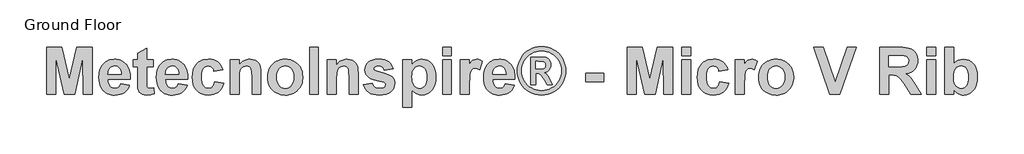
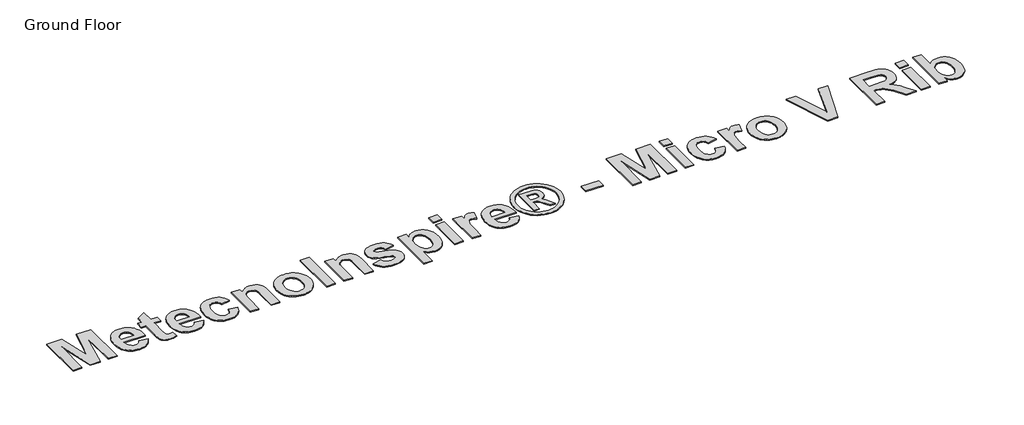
# One storey, part 7 of 14: 1 proxy.
"""IFC4 building model written with IfcOpenShell, lengths in millimetres."""

import ifcopenshell
import ifcopenshell.guid

model = None  # the IFC model being written
_history = None  # IfcOwnerHistory: only IFC2X3 demands one
_inside = {}  # id of a spatial element -> (the spatial element, [elements in it])
_under = {}  # id of a project, library or spatial element -> (it, [spatial elements below it])
_declared = {}  # id of a project -> (the project, [libraries it declares])
_typed = {}  # id of a type object -> (the type object, [elements of that type])
_made_of = {}  # id of a material, layer set ... -> (it, [elements and type objects made of it])


def new_model(schema):
    """Start an empty IFC model of exactly this schema.

    Asked for "IFC4X3", IfcOpenShell would pick the latest addendum, in which some entities
    have other attributes; the version numbers below select the first issue.
    IFC2X3 requires an IfcOwnerHistory on every rooted entity: one is made here for all.
    """
    global model, _history
    if schema == "IFC4X3":
        model = ifcopenshell.file(schema_version=(4, 3, 0, 0))
    else:
        model = ifcopenshell.file(schema=schema)
    _inside.clear()
    _under.clear()
    _declared.clear()
    _typed.clear()
    _made_of.clear()
    _history = None
    if model.schema == "IFC2X3":
        org = make("IfcOrganization", Name="unknown")
        user = make(
            "IfcPersonAndOrganization",
            ThePerson=make("IfcPerson", FamilyName="unknown"),
            TheOrganization=org,
        )
        app = make(
            "IfcApplication",
            ApplicationDeveloper=org,
            Version="unknown",
            ApplicationFullName="unknown",
            ApplicationIdentifier="unknown",
        )
        _history = make(
            "IfcOwnerHistory",
            OwningUser=user,
            OwningApplication=app,
            ChangeAction="ADDED",
            CreationDate=0,
        )
    return model


def make(cls, **values):
    """One entity of the class cls with the attributes given. An attribute that is None is left unset."""
    return model.create_entity(
        cls, **{name: value for name, value in values.items() if value is not None}
    )


def rooted(cls, **values):
    """An entity with a GlobalId (a new one), such as an element, a storey or a relation."""
    return make(cls, GlobalId=ifcopenshell.guid.new(), OwnerHistory=_history, **values)


def si_unit(unit_type, name, prefix=None):
    """IfcSIUnit, for example si_unit("LENGTHUNIT", "METRE", prefix="MILLI")."""
    return make("IfcSIUnit", UnitType=unit_type, Prefix=prefix, Name=name)


def assignment(units):
    """IfcUnitAssignment: the units of a project."""
    return None if units is None else make("IfcUnitAssignment", Units=units)


def point(xyz):
    """IfcCartesianPoint."""
    return None if xyz is None else make("IfcCartesianPoint", Coordinates=xyz)


def direction(xyz):
    """IfcDirection."""
    return None if xyz is None else make("IfcDirection", DirectionRatios=xyz)


def frame(location, z_axis=None, x_axis=None):
    """IfcAxis2Placement3D, a coordinate frame: its origin and axes. An axis left out is left unset."""
    return make(
        "IfcAxis2Placement3D",
        Location=point(location),
        Axis=direction(z_axis),
        RefDirection=direction(x_axis),
    )


def origin():
    """The frame at (0, 0, 0) with its axes left unset."""
    return frame((0.0, 0.0, 0.0))


def origin_with_axes():
    """The frame at (0, 0, 0) with the z axis (0, 0, 1) and the x axis (1, 0, 0) written out."""
    return frame((0.0, 0.0, 0.0), z_axis=(0.0, 0.0, 1.0), x_axis=(1.0, 0.0, 0.0))


def place(relative_to, where):
    """IfcLocalPlacement: puts the frame where relative to a parent placement (None: the world)."""
    return make(
        "IfcLocalPlacement", PlacementRelTo=relative_to, RelativePlacement=where
    )


def context(
    kind, dimensions, precision=None, world=None, true_north=None, identifier=None
):
    """IfcGeometricRepresentationContext, for example the 3D "Model" context."""
    return make(
        "IfcGeometricRepresentationContext",
        ContextIdentifier=identifier,
        ContextType=kind,
        CoordinateSpaceDimension=dimensions,
        Precision=precision,
        WorldCoordinateSystem=world,
        TrueNorth=true_north,
    )


def project(units=None, contexts=None):
    """IfcProject with its units and contexts."""
    return rooted(
        "IfcProject",
        Name="project",
        RepresentationContexts=contexts,
        UnitsInContext=assignment(units),
    )


def spatial(cls, under=None, at=None, **own):
    """A site, building, storey or space (cls), placed at a placement, below another one or the project."""
    s = rooted(cls, ObjectPlacement=at, **own)
    if under is not None:
        _under.setdefault(under.id(), (under, []))[1].append(s)
    return s


def polyline(points):
    """IfcPolyline through the points."""
    return make("IfcPolyline", Points=[point(p) for p in points])


def outline(outer, holes=None, kind="AREA"):
    """IfcArbitraryClosedProfileDef: a profile drawn as a closed curve; with holes, ...WithVoids."""
    if holes is None:
        return make("IfcArbitraryClosedProfileDef", ProfileType=kind, OuterCurve=outer)
    return make(
        "IfcArbitraryProfileDefWithVoids",
        ProfileType=kind,
        OuterCurve=outer,
        InnerCurves=holes,
    )


def extrude(swept, where, along, depth):
    """IfcExtrudedAreaSolid: the profile swept, set in the frame where, extruded along a direction by depth."""
    return make(
        "IfcExtrudedAreaSolid",
        SweptArea=swept,
        Position=where,
        ExtrudedDirection=direction(along),
        Depth=depth,
    )


def shape(context_of_items, identifier, shape_type, items):
    """IfcShapeRepresentation: the items that make up one representation, for example the "Body"."""
    return make(
        "IfcShapeRepresentation",
        ContextOfItems=context_of_items,
        RepresentationIdentifier=identifier,
        RepresentationType=shape_type,
        Items=items,
    )


def made_of(thing, what):
    """Note that an element or type object is made of a material, layer set ...; save() writes the relation."""
    if what is not None:
        _made_of.setdefault(what.id(), (what, []))[1].append(thing)
    return thing


def element(
    cls,
    number,
    at=None,
    inside=None,
    cuts=None,
    type_object=None,
    material=None,
    context=None,
    identifier="Body",
    shape_type=None,
    held_by="IfcProductDefinitionShape",
    body=None,
    shapes=None,
    **own,
):
    """One element of the class cls, such as IfcWall. Its Tag is "e" and its number.

    at: its placement. inside: the storey or other place that contains it. cuts: it is an
    opening in that element (IfcRelVoidsElement). A single representation is given by context,
    identifier, shape_type and body (its items); several are given by shapes. held_by: the class
    of the entity that holds the representations. save() writes the other relations.
    """
    e = rooted(cls, Tag="e%d" % number, ObjectPlacement=at, **own)
    if body is not None:
        shapes = [shape(context, identifier, shape_type, body)]
    if shapes is not None:
        e.Representation = make(held_by, Representations=shapes)
    if inside is not None:
        _inside.setdefault(inside.id(), (inside, []))[1].append(e)
    if cuts is not None:
        rooted(
            "IfcRelVoidsElement", RelatingBuildingElement=cuts, RelatedOpeningElement=e
        )
    if type_object is not None:
        _typed.setdefault(type_object.id(), (type_object, []))[1].append(e)
    return made_of(e, material)


def aggregate(whole, parts):
    """IfcRelAggregates: a whole, such as a stair, and the parts it consists of."""
    return rooted("IfcRelAggregates", RelatingObject=whole, RelatedObjects=parts)


def save(model, path):
    """Write the relations noted so far, then the file.

    IfcRelAggregates (storeys below a building ...), IfcRelContainedInSpatialStructure (elements
    in a storey), IfcRelDefinesByType, IfcRelAssociatesMaterial and IfcRelDeclares: one each for
    every whole, place, type object, material and project.
    """
    for whole, parts in _under.values():
        aggregate(whole, parts)
    for where, things in _inside.values():
        rooted(
            "IfcRelContainedInSpatialStructure",
            RelatedElements=things,
            RelatingStructure=where,
        )
    for kind, things in _typed.values():
        rooted("IfcRelDefinesByType", RelatedObjects=things, RelatingType=kind)
    for what, things in _made_of.values():
        rooted("IfcRelAssociatesMaterial", RelatedObjects=things, RelatingMaterial=what)
    for by, libraries in _declared.values():
        rooted("IfcRelDeclares", RelatingContext=by, RelatedDefinitions=libraries)
    model.write(path)


model = new_model("IFC4")

# Units and contexts
model_context = context("Model", 3, world=origin())
ifc_project = project(units=[si_unit("LENGTHUNIT", "METRE", prefix="MILLI")], contexts=[model_context])

# Site, building, storey
site = spatial("IfcSite", under=ifc_project)
building = spatial("IfcBuilding", under=site)
storey = spatial("IfcBuildingStorey", under=building, Name="Ground Floor", Elevation=0.0)

# Proxy
placement = place(None, origin())
element("IfcBuildingElementProxy", 1, Name="900mm Arial", ObjectType="900mm Arial", at=placement, inside=storey, context=model_context, shape_type="SweptSolid", body=[
    extrude(outline(polyline([(307.0358662, -78269.095371), (307.0358662, -77347.1315876), (607.954601, -77347.1315876), (753.3834121, -77975.9511323), (898.8122232, -77347.1315876), (1199.730958, -77347.1315876), (1199.730958, -78269.095371), (1024.1188088, -78269.095371), (1016.8016359, -77543.3232855), (856.2811558, -78269.095371), (650.7143301, -78269.095371), (489.9651883, -77543.3232855), (482.6480154, -78269.095371), (307.0358662, -78269.095371)])), origin_with_axes(), (0.0, 0.0, 1.0), 20.0),
    extrude(outline(polyline([(1755.8360972, -78064.2145302), (1931.4482464, -78093.4832217), (1912.4693293, -78137.2361998), (1888.6885174, -78175.4298415), (1860.1058108, -78208.0641467), (1826.7212095, -78235.1391155), (1788.6919184, -78256.3975036), (1746.1751424, -78271.5820664), (1699.1708814, -78280.6928041), (1647.6791355, -78283.7297167), (1606.5307566, -78281.9397247), (1568.1477545, -78276.5697487), (1532.5301292, -78267.6197887), (1499.6778809, -78255.0898447), (1469.5910093, -78238.9799167), (1442.2695147, -78219.2900047), (1417.7133969, -78196.0201087), (1395.922656, -78169.1702288), (1367.7115246, -78120.3080919), (1347.5607165, -78065.4150039), (1335.4702316, -78004.4909648), (1331.4400699, -77937.5359746), (1336.7850361, -77858.5905391), (1352.8199345, -77788.6772388), (1364.8461083, -77757.1076394), (1379.5447651, -77727.7960738), (1396.915905, -77700.742542), (1416.959528, -77675.947044), (1462.548945, -77634.5307022), (1487.4659195, -77618.2599965), (1513.7977379, -77604.9476009), (1541.5444003, -77594.5935154), (1570.7059067, -77587.1977401), (1633.2734514, -77581.2811199), (1669.0054075, -77582.7995761), (1702.8008852, -77587.354945), (1734.6598845, -77594.9472264), (1764.5824054, -77605.5764204), (1792.568448, -77619.242527), (1818.6180122, -77635.9455462), (1842.7310981, -77655.6854779), (1864.9077055, -77678.4623222), (1884.7333854, -77704.3761186), (1901.7936884, -77733.5269064), (1916.0886145, -77765.9146858), (1927.6181638, -77801.5394567), (1936.3823362, -77840.4012192), (1942.3811317, -77882.4999731), (1946.0825922, -77976.4084556), (1507.0522192, -77976.4084556), (1510.3249391, -78015.7096771), (1518.3138055, -78050.3805002), (1531.0188186, -78080.4209248), (1548.4399783, -78105.830951), (1569.4339763, -78126.0389245), (1592.8575043, -78140.4731914), (1618.7105624, -78149.1337514), (1646.9931506, -78152.0206048), (1683.8648421, -78146.8185522), (1714.4483381, -78131.2123944), (1727.3248474, -78119.221949), (1738.514977, -78104.0588232), (1755.8360972, -78064.2145302)]), holes=[polyline([(1770.470443, -77873.9680352), (1767.3406366, -77836.8891191), (1759.7805107, -77804.5406409), (1747.7900653, -77776.9226007), (1731.3693004, -77754.0349984), (1711.732981, -77736.077913), (1690.0958721, -77723.2514234), (1666.4579737, -77715.5555297), (1640.8192859, -77712.9902318), (1613.5799666, -77715.6912975), (1588.79876, -77723.7944949), (1566.4756661, -77737.2998237), (1546.6106851, -77756.2072841), (1530.4328731, -77779.8594738), (1518.9426251, -77807.3703289), (1512.1399409, -77838.7398494), (1510.0248206, -77873.9680352), (1770.470443, -77873.9680352)])]), origin_with_axes(), (0.0, 0.0, 1.0), 20.0),
    extrude(outline(polyline([(2399.747311, -77595.9154656), (2399.747311, -77727.6245775), (2268.0381991, -77727.6245775), (2268.0381991, -78016.4242448), (2269.0385938, -78085.7373083), (2272.039778, -78118.5216727), (2278.5852178, -78131.7840486), (2290.2183794, -78142.5311462), (2305.938868, -78149.6482402), (2324.746289, -78152.0206048), (2359.5028602, -78147.7903642), (2407.0644839, -78135.0996425), (2414.3816568, -78259.9489048), (2381.5544183, -78270.35301), (2346.6406422, -78277.7845138), (2270.5534773, -78283.7297167), (2223.7921693, -78279.613807), (2181.8327561, -78267.2660777), (2147.5620909, -78248.4014914), (2123.8670271, -78224.7350103), (2108.2322866, -78194.0371835), (2098.1425912, -78154.0785597), (2093.8551852, -78106.3454397), (2092.4260499, -78026.2566959), (2092.4260499, -77727.6245775), (2004.6199753, -77727.6245775), (2004.6199753, -77595.9154656), (2092.4260499, -77595.9154656), (2092.4260499, -77464.2063537), (2268.0381991, -77361.7659333), (2268.0381991, -77595.9154656), (2399.747311, -77595.9154656)])), origin_with_axes(), (0.0, 0.0, 1.0), 20.0),
    extrude(outline(polyline([(2882.6807214, -78064.2145302), (3058.2928706, -78093.4832217), (3039.3139534, -78137.2361998), (3015.5331415, -78175.4298415), (2986.950435, -78208.0641467), (2953.5658337, -78235.1391155), (2915.5365426, -78256.3975036), (2873.0197665, -78271.5820664), (2826.0155056, -78280.6928041), (2774.5237597, -78283.7297167), (2733.3753807, -78281.9397247), (2694.9923786, -78276.5697487), (2659.3747534, -78267.6197887), (2626.522505, -78255.0898447), (2596.4356335, -78238.9799167), (2569.1141388, -78219.2900047), (2544.5580211, -78196.0201087), (2522.7672801, -78169.1702288), (2494.5561487, -78120.3080919), (2474.4053406, -78065.4150039), (2462.3148557, -78004.4909648), (2458.2846941, -77937.5359746), (2463.6296602, -77858.5905391), (2479.6645586, -77788.6772388), (2491.6907324, -77757.1076394), (2506.3893893, -77727.7960738), (2523.7605292, -77700.742542), (2543.8041522, -77675.947044), (2589.3935692, -77634.5307022), (2614.3105436, -77618.2599965), (2640.6423621, -77604.9476009), (2668.3890245, -77594.5935154), (2697.5505309, -77587.1977401), (2760.1180756, -77581.2811199), (2795.8500316, -77582.7995761), (2829.6455093, -77587.354945), (2861.5045086, -77594.9472264), (2891.4270296, -77605.5764204), (2919.4130722, -77619.242527), (2945.4626364, -77635.9455462), (2969.5757222, -77655.6854779), (2991.7523297, -77678.4623222), (3011.5780095, -77704.3761186), (3028.6383125, -77733.5269064), (3042.9332386, -77765.9146858), (3054.4627879, -77801.5394567), (3063.2269603, -77840.4012192), (3069.2257558, -77882.4999731), (3072.9272163, -77976.4084556), (2633.8968433, -77976.4084556), (2637.1695632, -78015.7096771), (2645.1584297, -78050.3805002), (2657.8634428, -78080.4209248), (2675.2846024, -78105.830951), (2696.2786004, -78126.0389245), (2719.7021285, -78140.4731914), (2745.5551866, -78149.1337514), (2773.8377747, -78152.0206048), (2810.7094662, -78146.8185522), (2841.2929622, -78131.2123944), (2854.1694716, -78119.221949), (2865.3596012, -78104.0588232), (2882.6807214, -78064.2145302)]), holes=[polyline([(2897.3150671, -77873.9680352), (2894.1852608, -77836.8891191), (2886.6251349, -77804.5406409), (2874.6346895, -77776.9226007), (2858.2139245, -77754.0349984), (2838.5776051, -77736.077913), (2816.9404962, -77723.2514234), (2793.3025979, -77715.5555297), (2767.6639101, -77712.9902318), (2740.4245907, -77715.6912975), (2715.6433841, -77723.7944949), (2693.3202903, -77737.2998237), (2673.4553092, -77756.2072841), (2657.2774973, -77779.8594738), (2645.7872492, -77807.3703289), (2638.9845651, -77838.7398494), (2636.8694448, -77873.9680352), (2897.3150671, -77873.9680352)])]), origin_with_axes(), (0.0, 0.0, 1.0), 20.0),
    extrude(outline(polyline([(3760.7414675, -77786.1619606), (3585.1293182, -77815.4306521), (3579.7057497, -77791.5140724), (3571.6668634, -77770.7558818), (3561.0126596, -77753.1560802), (3547.743138, -77738.7146677), (3532.0726691, -77727.460227), (3514.2156232, -77719.4213407), (3494.1720002, -77714.598009), (3471.9418002, -77712.9902318), (3442.5301951, -77716.0057073), (3416.2626878, -77725.0521339), (3393.1392781, -77740.1295117), (3373.1599662, -77761.2378405), (3357.0536111, -77789.4060978), (3345.5490717, -77825.6632611), (3338.6463481, -77870.0093304), (3336.3454402, -77922.4443056), (3338.7392419, -77980.7101529), (3345.9206469, -78029.7437861), (3357.8896553, -78069.545205), (3374.646267, -78100.1144097), (3395.4330403, -78122.82337), (3419.4925336, -78139.044056), (3446.8247468, -78148.7764676), (3477.4296798, -78152.0206048), (3500.4601957, -78150.1698746), (3521.3041344, -78144.6176838), (3539.9614962, -78135.3640326), (3556.4322808, -78122.4089208), (3570.6736144, -78104.92345), (3582.6426228, -78082.0787218), (3592.339306, -78053.8747361), (3599.763664, -78020.3114929), (3775.3758132, -78049.5801844), (3759.1908556, -78103.9945121), (3736.9320729, -78151.3060371), (3708.599465, -78191.5147596), (3674.1930319, -78224.6206795), (3633.5698602, -78250.4808833), (3586.5870363, -78268.9524574), (3533.2445601, -78280.0354019), (3473.5424318, -78283.7297167), (3405.7085234, -78277.9131359), (3374.5087127, -78270.6424099), (3345.1203311, -78260.4633936), (3317.5433785, -78247.3760868), (3291.7778549, -78231.3804896), (3267.8237604, -78212.4766021), (3245.6810949, -78190.6644241), (3225.7714534, -78166.2833754), (3208.5164307, -78139.6728756), (3193.9160269, -78110.8329246), (3181.9702419, -78079.7635226), (3166.0425287, -78010.9363651), (3160.733291, -77933.1914032), (3166.0068003, -77854.5675231), (3181.8273284, -77785.1615659), (3193.6927245, -77753.9153083), (3208.1948752, -77724.9735315), (3225.3337807, -77698.3362354), (3245.1094408, -77674.00342), (3267.135989, -77652.2716309), (3291.0275589, -77633.4374137), (3316.7841504, -77617.5007683), (3344.4057634, -77604.4616949), (3373.8923981, -77594.3201933), (3405.2440544, -77587.0762636), (3473.5424318, -77581.2811199), (3529.4073318, -77584.4466546), (3579.2412807, -77593.9432589), (3623.0442785, -77609.7709326), (3660.8163253, -77631.9296759), (3693.129075, -77660.5624022), (3720.554182, -77695.8120251), (3743.0916461, -77737.6785446), (3760.7414675, -77786.1619606)])), origin_with_axes(), (0.0, 0.0, 1.0), 20.0),
    extrude(outline(polyline([(4507.0931016, -78269.095371), (4331.4809524, -78269.095371), (4331.4809524, -77923.1302905), (4328.7370126, -77832.5802761), (4320.5051931, -77780.9027426), (4306.0423436, -77752.2628706), (4284.6053136, -77730.8258407), (4257.2230807, -77717.449134), (4224.9246223, -77712.9902318), (4203.0945801, -77714.5837177), (4182.4221376, -77719.3641753), (4162.9072947, -77727.3316048), (4144.5500514, -77738.486006), (4128.1721605, -77752.277162), (4114.5953749, -77768.1548555), (4103.8196945, -77786.1190865), (4095.8451194, -77806.1698552), (4085.9840856, -77866.2221217), (4082.6970743, -77962.0027715), (4082.6970743, -78269.095371), (3907.0849251, -78269.095371), (3907.0849251, -77595.9154656), (4082.6970743, -77595.9154656), (4082.6970743, -77692.8680063), (4104.2377166, -77666.7148298), (4127.1288917, -77644.0487435), (4151.3705997, -77624.8697474), (4176.9628406, -77609.1778415), (4203.9056144, -77596.9730258), (4232.1989211, -77588.2553003), (4261.8427607, -77583.024665), (4292.8371331, -77581.2811199), (4346.229629, -77586.5975033), (4394.8202302, -77602.5466535), (4435.4076735, -77626.7276233), (4464.7906959, -77656.7394652), (4484.941504, -77691.8676116), (4497.8323047, -77731.3974948), (4504.7779024, -77782.1889644), (4507.0931016, -77851.10187), (4507.0931016, -78269.095371)])), origin_with_axes(), (0.0, 0.0, 1.0), 20.0),
    extrude(outline(polyline([(4638.8022135, -77922.9016289), (4641.510425, -77879.0057372), (4649.6350593, -77835.8101219), (4663.1761166, -77793.3147829), (4682.1335967, -77751.5197202), (4706.0501764, -77712.5257628), (4734.4685325, -77678.4337395), (4767.3886648, -77649.2436504), (4804.8105733, -77624.9554955), (4845.6409697, -77605.8479562), (4888.7865653, -77592.1997138), (4934.2473601, -77584.0107683), (4982.0233541, -77581.2811199), (5019.0111629, -77582.8281588), (5054.287582, -77587.4692758), (5087.8526117, -77595.2044708), (5119.7062517, -77606.0337437), (5149.8485022, -77619.9570947), (5178.2793632, -77636.9745236), (5204.9988346, -77657.0860305), (5230.0069164, -77680.2916154), (5252.6497793, -77705.8624193), (5272.2735938, -77733.0695831), (5288.8783599, -77761.9131069), (5302.4640776, -77792.3929906), (5313.0307469, -77824.5092343), (5320.5783679, -77858.2618379), (5326.6164646, -77930.6761251), (5325.0908627, -77967.9890621), (5320.5140568, -78003.669212), (5312.886047, -78037.7165748), (5302.2068332, -78070.1311505), (5288.4764155, -78100.912939), (5271.6947939, -78130.0619405), (5251.8619684, -78157.5781548), (5228.977939, -78183.461582), (5203.7822831, -78206.9619261), (5177.0145784, -78227.328891), (5148.6748248, -78244.5624766), (5118.7630224, -78258.6626831), (5087.2791711, -78269.6295103), (5054.2232709, -78277.4629583), (5019.5953219, -78282.1630271), (4983.395324, -78283.7297167), (4938.0845884, -78281.1215447), (4893.8457043, -78273.2970288), (4850.6786717, -78260.2561689), (4808.5834906, -78241.9989651), (4769.5109307, -78218.6969136), (4735.4117618, -78190.5215106), (4706.2859838, -78157.4727561), (4682.1335967, -78119.5506501), (4663.1761166, -78076.991), (4649.6350593, -78030.0296131), (4641.510425, -77978.6664894), (4638.8022135, -77922.9016289)]), holes=[polyline([(4814.4143628, -77932.5054183), (4817.4512753, -77982.5608832), (4826.5620131, -78026.3996094), (4841.7465759, -78064.0215969), (4863.0049639, -78095.4268458), (4888.7222542, -78120.1866154), (4917.2835237, -78137.8721651), (4948.6887726, -78148.4834949), (4982.9380007, -78152.0206048), (5017.1729375, -78148.4834949), (5048.5353123, -78137.8721651), (5077.0251251, -78120.1866154), (5102.6423759, -78095.4268458), (5123.8007244, -78063.9358488), (5138.9138305, -78026.0566169), (5147.9816942, -77981.7891501), (5151.0043154, -77931.1334484), (5147.9816942, -77881.6782203), (5138.9138305, -77838.2682347), (5123.8007244, -77800.9034915), (5102.6423759, -77769.5839908), (5077.0251251, -77744.8242212), (5048.5353123, -77727.1386715), (5017.1729375, -77716.5273417), (4982.9380007, -77712.9902318), (4948.6887726, -77716.5273417), (4917.2835237, -77727.1386715), (4888.7222542, -77744.8242212), (4863.0049639, -77769.5839908), (4841.7465759, -77800.9892396), (4826.5620131, -77838.6112272), (4817.4512753, -77882.4499534), (4814.4143628, -77932.5054183)])]), origin_with_axes(), (0.0, 0.0, 1.0), 20.0),
    extrude(outline(polyline([(5458.3255766, -78269.095371), (5458.3255766, -77347.1315876), (5633.9377258, -77347.1315876), (5633.9377258, -78269.095371), (5458.3255766, -78269.095371)])), origin_with_axes(), (0.0, 0.0, 1.0), 20.0),
    extrude(outline(polyline([(6409.5580515, -78269.095371), (6233.9459023, -78269.095371), (6233.9459023, -77923.1302905), (6231.2019624, -77832.5802761), (6222.9701429, -77780.9027426), (6208.5072934, -77752.2628706), (6187.0702635, -77730.8258407), (6159.6880306, -77717.449134), (6127.3895721, -77712.9902318), (6105.55953, -77714.5837177), (6084.8870875, -77719.3641753), (6065.3722445, -77727.3316048), (6047.0150012, -77738.486006), (6030.6371104, -77752.277162), (6017.0603247, -77768.1548555), (6006.2846444, -77786.1190865), (5998.3100692, -77806.1698552), (5988.4490355, -77866.2221217), (5985.1620242, -77962.0027715), (5985.1620242, -78269.095371), (5809.549875, -78269.095371), (5809.549875, -77595.9154656), (5985.1620242, -77595.9154656), (5985.1620242, -77692.8680063), (6006.7026665, -77666.7148298), (6029.5938416, -77644.0487435), (6053.8355496, -77624.8697474), (6079.4277905, -77609.1778415), (6106.3705643, -77596.9730258), (6134.663871, -77588.2553003), (6164.3077105, -77583.024665), (6195.302083, -77581.2811199), (6248.6945789, -77586.5975033), (6297.28518, -77602.5466535), (6337.8726234, -77626.7276233), (6367.2556457, -77656.7394652), (6387.4064539, -77691.8676116), (6400.2972546, -77731.3974948), (6407.2428522, -77782.1889644), (6409.5580515, -77851.10187), (6409.5580515, -78269.095371)])), origin_with_axes(), (0.0, 0.0, 1.0), 20.0),
    extrude(outline(polyline([(6511.9984719, -78078.848876), (6687.6106211, -78049.5801844), (6694.5347817, -78073.2180828), (6704.3315044, -78093.8262142), (6717.0007891, -78111.4045788), (6732.5426358, -78125.9531764), (6751.1999975, -78137.3576763), (6773.2158273, -78145.5037477), (6798.590125, -78150.3913905), (6827.3228908, -78152.0206048), (6858.7495767, -78150.4628473), (6886.0317701, -78145.7895748), (6909.1694711, -78138.0007872), (6928.1626796, -78127.0964847), (6945.3123036, -78106.7455976), (6951.0288449, -78080.4495075), (6947.999078, -78062.2709062), (6938.9097773, -78047.5222296), (6918.1587323, -78035.4603274), (6881.5157025, -78024.4274026), (6787.2070621, -78001.4754893), (6711.9059217, -77979.4953879), (6655.6122811, -77958.4870986), (6618.3261403, -77938.4506213), (6584.6128379, -77908.5959842), (6560.5319076, -77873.4535465), (6546.0833495, -77833.023308), (6541.2671634, -77787.3052689), (6545.3973645, -77745.4744778), (6557.7879678, -77707.1021942), (6578.4389733, -77672.1884181), (6607.350381, -77640.7331495), (6644.9509315, -77614.7228865), (6691.6693654, -77596.1441273), (6747.5056827, -77584.9968717), (6812.4598834, -77581.2811199), (6874.2985691, -77584.282304), (6927.6481909, -77593.2858566), (6972.5087489, -77608.2917776), (7008.880243, -77629.3000669), (7038.5062184, -77656.1963938), (7063.1302201, -77688.8664274), (7082.7522482, -77727.3101678), (7097.3723026, -77771.5276148), (6921.7601534, -77800.7963064), (6908.84077, -77763.2386299), (6887.9182288, -77735.6277354), (6874.1413642, -77725.7238275), (6857.7348906, -77718.6496077), (6817.0331165, -77712.9902318), (6767.01338, -77717.7921265), (6748.2202504, -77723.7944949), (6733.5716133, -77732.1978106), (6721.0523878, -77747.9754646), (6716.8793126, -77767.8690284), (6721.0523878, -77785.0758178), (6733.5716133, -77799.6529981), (6751.6859035, -77809.2424962), (6783.6199325, -77820.6327047), (6888.9472062, -77848.8152534), (6950.407171, -77865.6361762), (7001.8203145, -77884.314975), (7043.1866366, -77904.8516497), (7074.5061373, -77927.2462003), (7097.3151372, -77953.2421719), (7113.6072799, -77983.8971247), (7123.3825656, -78019.2110587), (7126.6409941, -78059.1839738), (7121.9177019, -78103.6372282), (7107.7478251, -78144.8463455), (7084.1313638, -78182.8113255), (7051.0683179, -78217.5321683), (7008.7444752, -78246.4935957), (6957.3456231, -78267.1803296), (6896.8717616, -78279.5923699), (6827.3228908, -78283.7297167), (6763.6048922, -78280.2855006), (6706.903948, -78269.9528522), (6657.2200583, -78252.7317714), (6614.5532231, -78228.6222584), (6578.7748201, -78198.5961252), (6549.7562272, -78163.6251837), (6527.4974445, -78123.7094339), (6511.9984719, -78078.848876)])), origin_with_axes(), (0.0, 0.0, 1.0), 20.0),
    extrude(outline(polyline([(7287.6187976, -77595.9154656), (7463.2309468, -77595.9154656), (7463.2309468, -77692.8680063), (7480.0232869, -77669.1300685), (7499.5309841, -77647.7644954), (7521.7540385, -77628.7712868), (7546.69245, -77612.150443), (7573.7173991, -77598.6451141), (7602.2000662, -77588.9984506), (7632.1404513, -77583.2104525), (7663.5385545, -77581.2811199), (7717.3383539, -77587.0190982), (7766.9222042, -77604.2330332), (7812.2901052, -77632.922925), (7853.442057, -77673.0887734), (7871.7439213, -77697.1643444), (7887.605537, -77723.4872308), (7912.0080228, -77782.8749493), (7926.6495142, -77851.2519292), (7931.5300114, -77928.6181702), (7926.4923093, -78008.178134), (7911.3792032, -78078.3343872), (7900.0443737, -78109.8861225), (7886.1906931, -78139.0869301), (7869.8181614, -78165.9368101), (7850.9267788, -78190.4357625), (7808.4886052, -78231.2518674), (7761.777317, -78260.4062282), (7710.7929141, -78277.8988446), (7655.5353966, -78283.7297167), (7603.4577053, -78278.2990025), (7556.5249011, -78262.0068597), (7511.0212322, -78232.5095065), (7463.2309468, -78187.463161), (7463.2309468, -78517.879249), (7287.6187976, -78517.879249), (7287.6187976, -77595.9154656)]), holes=[polyline([(7463.2309468, -77920.843674), (7465.9820323, -77976.0940458), (7474.2352888, -78023.6270869), (7487.9907164, -78063.4427971), (7507.2483149, -78095.5411766), (7530.4646183, -78120.2509264), (7556.0961605, -78137.9007478), (7584.1429413, -78148.4906405), (7614.6049608, -78152.0206048), (7643.637845, -78148.7836133), (7670.1411597, -78139.0726387), (7694.1149049, -78122.8876811), (7715.5590805, -78100.2287405), (7733.2160475, -78070.1811702), (7745.8281667, -78031.8303236), (7753.3954383, -77985.1762008), (7755.9178622, -77930.2188018), (7753.3239815, -77878.6555991), (7745.5423397, -77834.1809077), (7732.5729366, -77796.7947275), (7714.4157722, -77766.4970585), (7692.4142338, -77743.0878218), (7667.9117086, -77726.3669384), (7640.9081966, -77716.3344084), (7611.4036977, -77712.9902318), (7580.85593, -77716.2700973), (7553.0092282, -77726.1096941), (7527.863592, -77742.509022), (7505.4190217, -77765.468081), (7486.9617389, -77794.8582491), (7473.7779655, -77830.5509039), (7465.8677015, -77872.5460456), (7463.2309468, -77920.843674)])]), origin_with_axes(), (0.0, 0.0, 1.0), 20.0),
    extrude(outline(polyline([(8063.2391233, -77508.109391), (8063.2391233, -77347.1315876), (8238.8512725, -77347.1315876), (8238.8512725, -77508.109391), (8063.2391233, -77508.109391)])), origin_with_axes(), (0.0, 0.0, 1.0), 20.0),
    extrude(outline(polyline([(8063.2391233, -78269.095371), (8063.2391233, -77595.9154656), (8238.8512725, -77595.9154656), (8238.8512725, -78269.095371), (8063.2391233, -78269.095371)])), origin_with_axes(), (0.0, 0.0, 1.0), 20.0),
    extrude(outline(polyline([(8590.0755709, -78269.095371), (8414.4634217, -78269.095371), (8414.4634217, -77595.9154656), (8590.0755709, -77595.9154656), (8590.0755709, -77689.6667432), (8627.1759241, -77634.5307022), (8644.2255085, -77615.5160567), (8660.2746983, -77602.2036611), (8693.5449687, -77586.5117552), (8731.1598106, -77581.2811199), (8758.8135792, -77583.5963191), (8785.9814418, -77590.5419168), (8812.6633984, -77602.1179129), (8838.859449, -77618.3243076), (8787.6392388, -77785.4759756), (8745.3368331, -77764.0389457), (8725.3861039, -77758.6796882), (8706.2356905, -77756.8932691), (8672.479514, -77761.8952427), (8644.3827134, -77776.9011637), (8632.4208507, -77788.9130461), (8621.8023752, -77804.9407988), (8604.5955859, -77849.0439151), (8598.2430793, -77882.2570201), (8593.7055747, -77929.7614785), (8590.0755709, -78067.644455), (8590.0755709, -78269.095371)])), origin_with_axes(), (0.0, 0.0, 1.0), 20.0),
    extrude(outline(polyline([(9292.5241678, -78064.2145302), (9468.136317, -78093.4832217), (9449.1573999, -78137.2361998), (9425.376588, -78175.4298415), (9396.7938814, -78208.0641467), (9363.4092801, -78235.1391155), (9325.379989, -78256.3975036), (9282.863213, -78271.5820664), (9235.858952, -78280.6928041), (9184.3672061, -78283.7297167), (9143.2188272, -78281.9397247), (9104.8358251, -78276.5697487), (9069.2181998, -78267.6197887), (9036.3659514, -78255.0898447), (9006.2790799, -78238.9799167), (8978.9575853, -78219.2900047), (8954.4014675, -78196.0201087), (8932.6107266, -78169.1702288), (8904.3995952, -78120.3080919), (8884.248787, -78065.4150039), (8872.1583022, -78004.4909648), (8868.1281405, -77937.5359746), (8873.4731067, -77858.5905391), (8889.508005, -77788.6772388), (8901.5341788, -77757.1076394), (8916.2328357, -77727.7960738), (8933.6039756, -77700.742542), (8953.6475986, -77675.947044), (8999.2370156, -77634.5307022), (9024.1539901, -77618.2599965), (9050.4858085, -77604.9476009), (9078.2324709, -77594.5935154), (9107.3939773, -77587.1977401), (9169.961522, -77581.2811199), (9205.6934781, -77582.7995761), (9239.4889557, -77587.354945), (9271.3479551, -77594.9472264), (9301.270476, -77605.5764204), (9329.2565186, -77619.242527), (9355.3060828, -77635.9455462), (9379.4191686, -77655.6854779), (9401.5957761, -77678.4623222), (9421.421456, -77704.3761186), (9438.4817589, -77733.5269064), (9452.7766851, -77765.9146858), (9464.3062343, -77801.5394567), (9473.0704067, -77840.4012192), (9479.0692023, -77882.4999731), (9482.7706628, -77976.4084556), (9043.7402897, -77976.4084556), (9047.0130096, -78015.7096771), (9055.0018761, -78050.3805002), (9067.7068892, -78080.4209248), (9085.1280489, -78105.830951), (9106.1220469, -78126.0389245), (9129.5455749, -78140.4731914), (9155.398633, -78149.1337514), (9183.6812212, -78152.0206048), (9220.5529126, -78146.8185522), (9251.1364087, -78131.2123944), (9264.012918, -78119.221949), (9275.2030476, -78104.0588232), (9292.5241678, -78064.2145302)]), holes=[polyline([(9307.1585136, -77873.9680352), (9304.0287072, -77836.8891191), (9296.4685813, -77804.5406409), (9284.4781359, -77776.9226007), (9268.057371, -77754.0349984), (9248.4210516, -77736.077913), (9226.7839427, -77723.2514234), (9203.1460443, -77715.5555297), (9177.5073565, -77712.9902318), (9150.2680372, -77715.6912975), (9125.4868306, -77723.7944949), (9103.1637367, -77737.2998237), (9083.2987557, -77756.2072841), (9067.1209437, -77779.8594738), (9055.6306957, -77807.3703289), (9048.8280115, -77838.7398494), (9046.7128912, -77873.9680352), (9307.1585136, -77873.9680352)])]), origin_with_axes(), (0.0, 0.0, 1.0), 20.0),
    extrude(outline(polyline([(10002.2899376, -77332.4972418), (10062.8352558, -77336.3201788), (10122.1372262, -77347.7889898), (10180.195849, -77366.9036748), (10237.011124, -77393.6642339), (10290.1963952, -77427.5633239), (10337.3650068, -77468.0936018), (10378.5169586, -77515.2550677), (10413.6522506, -77569.0477214), (10441.7633426, -77626.8205171), (10461.8426939, -77685.9224086), (10473.8903047, -77746.353396), (10477.906175, -77808.1134793), (10473.9689072, -77869.4805503), (10462.1571037, -77929.418486), (10442.4707645, -77987.9272863), (10414.9098897, -78045.0069514), (10380.3033777, -78098.2636794), (10339.4801271, -78145.3036688), (10292.4401377, -78186.1269194), (10239.1834097, -78220.7334314), (10182.1037446, -78248.2943062), (10123.5949443, -78267.9806454), (10063.6570086, -78279.7924489), (10002.2899376, -78283.7297167), (9940.9228665, -78279.7924489), (9880.9849308, -78267.9806454), (9822.4761305, -78248.2943062), (9765.3964654, -78220.7334314), (9712.1397374, -78186.1269194), (9665.0997481, -78145.3036688), (9624.2764974, -78098.2636794), (9589.6699854, -78045.0069514), (9562.1091106, -77987.9272863), (9542.4227714, -77929.418486), (9530.6109679, -77869.4805503), (9526.6737001, -77808.1134793), (9530.6895704, -77746.353396), (9542.7371812, -77685.9224086), (9562.8165326, -77626.8205171), (9590.9276245, -77569.0477214), (9626.0629165, -77515.2550677), (9667.2148683, -77468.0936018), (9714.3834799, -77427.5633239), (9767.5687511, -77393.6642339), (9824.3840261, -77366.9036748), (9882.4426489, -77347.7889898), (9941.7446193, -77336.3201788), (10002.2899376, -77332.4972418)]), holes=[polyline([(10002.0612759, -77420.3033164), (9952.73467, -77423.4116857), (9904.4513329, -77432.7367938), (9857.2112646, -77448.2786405), (9811.0144651, -77470.0372258), (9767.7616844, -77497.612392), (9729.3536724, -77530.6039811), (9695.7904292, -77569.0119931), (9667.0719548, -77612.8364279), (9644.062876, -77659.926437), (9627.6278197, -77708.1311716), (9617.766786, -77757.4506318), (9614.4797747, -77807.8848176), (9617.6881835, -77857.9402825), (9627.31341, -77906.8095651), (9643.355454, -77954.4926653), (9665.8143157, -78000.9895832), (9694.0254471, -78044.3781318), (9727.3243003, -78082.7361241), (9765.7108752, -78116.0635599), (9809.1851719, -78144.3604394), (9855.7535466, -78166.9193406), (9903.4223555, -78183.0328414), (9952.1915986, -78192.7009419), (10002.0612759, -78195.9236421), (10052.1095951, -78192.7009419), (10100.9574407, -78183.0328414), (10148.6048125, -78166.9193406), (10195.0517107, -78144.3604394), (10238.3973852, -78116.0635599), (10276.7410861, -78082.7361241), (10310.0828133, -78044.3781318), (10338.4225669, -78000.9895832), (10361.0314878, -77954.4926653), (10377.180717, -77906.8095651), (10386.8702546, -77857.9402825), (10390.1001004, -77807.8848176), (10386.8130892, -77757.4506318), (10376.9520554, -77708.1311716), (10360.5169991, -77659.926437), (10337.5079203, -77612.8364279), (10308.7680088, -77569.0119931), (10275.1404546, -77530.6039811), (10236.6252574, -77497.612392), (10193.2224175, -77470.0372258), (10146.8898501, -77448.2786405), (10099.5854708, -77432.7367938), (10051.3092793, -77423.4116857), (10002.0612759, -77420.3033164)])]), origin_with_axes(), (0.0, 0.0, 1.0), 20.0),
    extrude(outline(polyline([(9790.0919239, -78078.848876), (9790.0919239, -77537.3780825), (9889.1024195, -77537.3780825), (10044.8210049, -77538.7500525), (10088.5239633, -77546.4388005), (10121.3083278, -77560.3585786), (10146.3753614, -77581.8813567), (10166.9263275, -77612.3791046), (10180.6460266, -77649.2507961), (10185.2192597, -77689.8954048), (10183.0969937, -77718.1065362), (10176.7301958, -77744.2025473), (10166.118866, -77768.1834382), (10151.2630042, -77790.0492087), (10132.5627685, -77808.8852123), (10110.4183165, -77823.7768025), (10084.8296485, -77834.7239791), (10055.7967643, -77841.7267422), (10076.0619032, -77851.5020278), (10091.1249896, -77862.0776293), (10125.3099067, -77903.6940501), (10162.5817561, -77969.548606), (10214.4879512, -78078.848876), (10112.0475308, -78078.848876), (10061.5133056, -77992.1861096), (10016.5527081, -77920.843674), (9984.1113362, -77881.9711931), (9970.1415383, -77872.0672852), (9954.413904, -77864.9930653), (9917.6851261, -77859.3336894), (9892.5323443, -77859.3336894), (9892.5323443, -78078.848876), (9790.0919239, -78078.848876)]), holes=[polyline([(9892.5323443, -77771.5276148), (9932.5481335, -77771.5276148), (10001.661118, -77769.7269043), (10038.4184787, -77764.3247728), (10056.8257417, -77754.3779909), (10070.8884333, -77738.9433293), (10079.8062378, -77719.5356716), (10082.7788393, -77697.669901), (10079.8634032, -77676.4901155), (10071.117095, -77657.7684427), (10056.9972379, -77642.7625217), (10037.9611554, -77632.7299917), (10000.8608022, -77627.0706158), (9932.5481335, -77625.1841572), (9892.5323443, -77625.1841572), (9892.5323443, -77771.5276148)])]), origin_with_axes(), (0.0, 0.0, 1.0), 20.0),
    extrude(outline(polyline([(10873.0335108, -78020.3114929), (10873.0335108, -77859.3336894), (11224.2578092, -77859.3336894), (11224.2578092, -78020.3114929), (10873.0335108, -78020.3114929)])), origin_with_axes(), (0.0, 0.0, 1.0), 20.0),
    extrude(outline(polyline([(11677.922528, -78269.095371), (11677.922528, -77347.1315876), (11978.8412629, -77347.1315876), (12124.2700739, -77975.9511323), (12269.698885, -77347.1315876), (12570.6176199, -77347.1315876), (12570.6176199, -78269.095371), (12395.0054706, -78269.095371), (12387.6882978, -77543.3232855), (12227.1678176, -78269.095371), (12021.6009919, -78269.095371), (11860.8518501, -77543.3232855), (11853.5346772, -78269.095371), (11677.922528, -78269.095371)])), origin_with_axes(), (0.0, 0.0, 1.0), 20.0),
    extrude(outline(polyline([(12746.2297691, -78269.095371), (12746.2297691, -77595.9154656), (12921.8419183, -77595.9154656), (12921.8419183, -78269.095371), (12746.2297691, -78269.095371)])), origin_with_axes(), (0.0, 0.0, 1.0), 20.0),
    extrude(outline(polyline([(12746.2297691, -77508.109391), (12746.2297691, -77347.1315876), (12921.8419183, -77347.1315876), (12921.8419183, -77508.109391), (12746.2297691, -77508.109391)])), origin_with_axes(), (0.0, 0.0, 1.0), 20.0),
    extrude(outline(polyline([(13653.5592067, -77786.1619606), (13477.9470575, -77815.4306521), (13472.5234889, -77791.5140724), (13464.4846027, -77770.7558818), (13453.8303988, -77753.1560802), (13440.5608773, -77738.7146677), (13424.8904084, -77727.460227), (13407.0333625, -77719.4213407), (13386.9897395, -77714.598009), (13364.7595394, -77712.9902318), (13335.3479344, -77716.0057073), (13309.080427, -77725.0521339), (13285.9570174, -77740.1295117), (13265.9777055, -77761.2378405), (13249.8713503, -77789.4060978), (13238.366811, -77825.6632611), (13231.4640873, -77870.0093304), (13229.1631794, -77922.4443056), (13231.5569811, -77980.7101529), (13238.7383861, -78029.7437861), (13250.7073945, -78069.545205), (13267.4640062, -78100.1144097), (13288.2507796, -78122.82337), (13312.3102729, -78139.044056), (13339.642486, -78148.7764676), (13370.2474191, -78152.0206048), (13393.2779349, -78150.1698746), (13414.1218737, -78144.6176838), (13432.7792354, -78135.3640326), (13449.2500201, -78122.4089208), (13463.4913536, -78104.92345), (13475.460362, -78082.0787218), (13485.1570452, -78053.8747361), (13492.5814033, -78020.3114929), (13668.1935525, -78049.5801844), (13652.0085949, -78103.9945121), (13629.7498121, -78151.3060371), (13601.4172042, -78191.5147596), (13567.0107712, -78224.6206795), (13526.3875995, -78250.4808833), (13479.4047755, -78268.9524574), (13426.0622994, -78280.0354019), (13366.360171, -78283.7297167), (13298.5262626, -78277.9131359), (13267.326452, -78270.6424099), (13237.9380704, -78260.4633936), (13210.3611178, -78247.3760868), (13184.5955942, -78231.3804896), (13160.6414997, -78212.4766021), (13138.4988342, -78190.6644241), (13118.5891926, -78166.2833754), (13101.3341699, -78139.6728756), (13086.7337661, -78110.8329246), (13074.7879812, -78079.7635226), (13058.860268, -78010.9363651), (13053.5510302, -77933.1914032), (13058.8245396, -77854.5675231), (13074.6450677, -77785.1615659), (13086.5104637, -77753.9153083), (13101.0126145, -77724.9735315), (13118.1515199, -77698.3362354), (13137.92718, -77674.00342), (13159.9537283, -77652.2716309), (13183.8452982, -77633.4374137), (13209.6018896, -77617.5007683), (13237.2235027, -77604.4616949), (13266.7101374, -77594.3201933), (13298.0617936, -77587.0762636), (13366.360171, -77581.2811199), (13422.225071, -77584.4466546), (13472.0590199, -77593.9432589), (13515.8620178, -77609.7709326), (13553.6340645, -77631.9296759), (13585.9468143, -77660.5624022), (13613.3719213, -77695.8120251), (13635.9093854, -77737.6785446), (13653.5592067, -77786.1619606)])), origin_with_axes(), (0.0, 0.0, 1.0), 20.0),
    extrude(outline(polyline([(13975.5148136, -78269.095371), (13799.9026644, -78269.095371), (13799.9026644, -77595.9154656), (13975.5148136, -77595.9154656), (13975.5148136, -77689.6667432), (14012.6151667, -77634.5307022), (14029.6647512, -77615.5160567), (14045.713941, -77602.2036611), (14078.9842114, -77586.5117552), (14116.5990533, -77581.2811199), (14144.2528219, -77583.5963191), (14171.4206845, -77590.5419168), (14198.1026411, -77602.1179129), (14224.2986917, -77618.3243076), (14173.0784815, -77785.4759756), (14130.7760757, -77764.0389457), (14110.8253465, -77758.6796882), (14091.6749331, -77756.8932691), (14057.9187567, -77761.8952427), (14029.8219561, -77776.9011637), (14017.8600934, -77788.9130461), (14007.2416179, -77804.9407988), (13990.0348285, -77849.0439151), (13983.682322, -77882.2570201), (13979.1448173, -77929.7614785), (13975.5148136, -78067.644455), (13975.5148136, -78269.095371)])), origin_with_axes(), (0.0, 0.0, 1.0), 20.0),
    extrude(outline(polyline([(14253.5673832, -77922.9016289), (14256.2755946, -77879.0057372), (14264.400229, -77835.8101219), (14277.9412862, -77793.3147829), (14296.8987664, -77751.5197202), (14320.8153461, -77712.5257628), (14349.2337021, -77678.4337395), (14382.1538344, -77649.2436504), (14419.575743, -77624.9554955), (14460.4061394, -77605.8479562), (14503.5517349, -77592.1997138), (14549.0125297, -77584.0107683), (14596.7885238, -77581.2811199), (14633.7763325, -77582.8281588), (14669.0527517, -77587.4692758), (14702.6177813, -77595.2044708), (14734.4714214, -77606.0337437), (14764.6136719, -77619.9570947), (14793.0445328, -77636.9745236), (14819.7640042, -77657.0860305), (14844.7720861, -77680.2916154), (14867.4149489, -77705.8624193), (14887.0387634, -77733.0695831), (14903.6435295, -77761.9131069), (14917.2292472, -77792.3929906), (14927.7959166, -77824.5092343), (14935.3435375, -77858.2618379), (14941.3816343, -77930.6761251), (14939.8560323, -77967.9890621), (14935.2792264, -78003.669212), (14927.6512166, -78037.7165748), (14916.9720029, -78070.1311505), (14903.2415852, -78100.912939), (14886.4599636, -78130.0619405), (14866.6271381, -78157.5781548), (14843.7431086, -78183.461582), (14818.5474528, -78206.9619261), (14791.7797481, -78227.328891), (14763.4399945, -78244.5624766), (14733.5281921, -78258.6626831), (14702.0443408, -78269.6295103), (14668.9884406, -78277.4629583), (14634.3604916, -78282.1630271), (14598.1604937, -78283.7297167), (14552.8497581, -78281.1215447), (14508.610874, -78273.2970288), (14465.4438414, -78260.2561689), (14423.3486603, -78241.9989651), (14384.2761004, -78218.6969136), (14350.1769314, -78190.5215106), (14321.0511534, -78157.4727561), (14296.8987664, -78119.5506501), (14277.9412862, -78076.991), (14264.400229, -78030.0296131), (14256.2755946, -77978.6664894), (14253.5673832, -77922.9016289)]), holes=[polyline([(14429.1795324, -77932.5054183), (14432.216445, -77982.5608832), (14441.3271827, -78026.3996094), (14456.5117456, -78064.0215969), (14477.7701336, -78095.4268458), (14503.4874238, -78120.1866154), (14532.0486934, -78137.8721651), (14563.4539422, -78148.4834949), (14597.7031704, -78152.0206048), (14631.9381072, -78148.4834949), (14663.300482, -78137.8721651), (14691.7902948, -78120.1866154), (14717.4075456, -78095.4268458), (14738.5658941, -78063.9358488), (14753.6790002, -78026.0566169), (14762.7468639, -77981.7891501), (14765.7694851, -77931.1334484), (14762.7468639, -77881.6782203), (14753.6790002, -77838.2682347), (14738.5658941, -77800.9034915), (14717.4075456, -77769.5839908), (14691.7902948, -77744.8242212), (14663.300482, -77727.1386715), (14631.9381072, -77716.5273417), (14597.7031704, -77712.9902318), (14563.4539422, -77716.5273417), (14532.0486934, -77727.1386715), (14503.4874238, -77744.8242212), (14477.7701336, -77769.5839908), (14456.5117456, -77800.9892396), (14441.3271827, -77838.6112272), (14432.216445, -77882.4499534), (14429.1795324, -77932.5054183)])]), origin_with_axes(), (0.0, 0.0, 1.0), 20.0),
    extrude(outline(polyline([(15647.260156, -78269.095371), (15336.50897, -77347.1315876), (15521.7249087, -77347.1315876), (15753.5878244, -78034.9458387), (15986.1367252, -77347.1315876), (16170.6666788, -77347.1315876), (15843.4518539, -78269.095371), (15647.260156, -78269.095371)])), origin_with_axes(), (0.0, 0.0, 1.0), 20.0),
    extrude(outline(polyline([(16624.3313976, -78269.095371), (16624.3313976, -77347.1315876), (17012.1415605, -77347.1315876), (17080.3113157, -77348.6893451), (17138.4771236, -77353.3626176), (17186.6389842, -77361.1514051), (17224.7968974, -77372.0557077), (17256.2950401, -77386.9472978), (17284.4775888, -77406.6979481), (17309.3445435, -77431.3076584), (17330.8959043, -77460.7764289), (17348.3027726, -77493.8323291), (17360.7362499, -77529.2034285), (17368.1963363, -77566.8897271), (17370.6830318, -77606.8912249), (17367.0887565, -77656.7537566), (17356.3059304, -77702.0716379), (17338.3345536, -77742.8448688), (17313.1746262, -77779.0734494), (17280.8547307, -77809.8856071), (17241.40345, -77834.4095693), (17194.8207839, -77852.6453361), (17141.1067326, -77864.5929075), (17192.0411157, -77901.2931027), (17233.2573786, -77941.4232227), (17275.9027768, -77999.5604479), (17331.1245659, -78090.2819586), (17443.8547607, -78269.095371), (17238.7452582, -78269.095371), (17105.2068531, -78058.4979889), (17040.6956844, -77977.637512), (17000.3654854, -77933.5343957), (16971.2682901, -77911.8401214), (16940.4561324, -77898.2061704), (16899.5542793, -77891.0033283), (16840.1879977, -77888.602381), (16799.9435469, -77888.602381), (16799.9435469, -78269.095371), (16624.3313976, -78269.095371)]), holes=[polyline([(16799.9435469, -77727.6245775), (16944.686373, -77727.6245775), (17058.9314512, -77724.9663858), (17120.412853, -77716.9918107), (17151.682334, -77702.5289612), (17175.2916496, -77680.4059463), (17190.1260744, -77651.2230028), (17195.0708826, -77615.5803677), (17193.4416683, -77594.7935944), (17188.5540255, -77576.10765), (17180.4079541, -77559.5225345), (17169.0034542, -77545.0382479), (17154.6263528, -77532.8405779), (17137.562477, -77523.115312), (17095.3744021, -77511.0819925), (16952.6895308, -77508.109391), (16799.9435469, -77508.109391), (16799.9435469, -77727.6245775)])]), origin_with_axes(), (0.0, 0.0, 1.0), 20.0),
    extrude(outline(polyline([(17546.295181, -77508.109391), (17546.295181, -77347.1315876), (17721.9073302, -77347.1315876), (17721.9073302, -77508.109391), (17546.295181, -77508.109391)])), origin_with_axes(), (0.0, 0.0, 1.0), 20.0),
    extrude(outline(polyline([(17546.295181, -78269.095371), (17546.295181, -77595.9154656), (17721.9073302, -77595.9154656), (17721.9073302, -78269.095371), (17546.295181, -78269.095371)])), origin_with_axes(), (0.0, 0.0, 1.0), 20.0),
    extrude(outline(polyline([(17897.5194795, -78269.095371), (17897.5194795, -77347.1315876), (18073.1316287, -77347.1315876), (18073.1316287, -77673.4317659), (18115.2339555, -77633.1158582), (18161.0520341, -77604.3187814), (18210.5858646, -77587.0405352), (18263.835447, -77581.2811199), (18321.3724353, -77586.8404563), (18373.7073711, -77603.5184656), (18420.8402542, -77631.3151477), (18462.7710848, -77670.2305027), (18481.2069305, -77693.6790406), (18497.1846635, -77719.5499629), (18510.7042837, -77747.8432696), (18521.7657911, -77778.5589607), (18536.5144677, -77847.2574959), (18541.4306933, -77925.6455687), (18536.5430504, -78006.6918332), (18521.880122, -78077.8770639), (18510.8829256, -78109.7717916), (18497.4419078, -78139.2012609), (18481.5570687, -78166.1654717), (18463.2284081, -78190.6644241), (18422.0407279, -78231.3804896), (18376.6799725, -78260.4633936), (18327.146142, -78277.9131359), (18273.4392364, -78283.7297167), (18246.0927319, -78281.9718803), (18218.9320149, -78276.6983709), (18191.9570856, -78267.9091886), (18165.1679439, -78255.6043334), (18139.3934882, -78239.8409708), (18115.4626171, -78220.676266), (18093.3753306, -78198.1102192), (18073.1316287, -78172.1428302), (18073.1316287, -78269.095371), (17897.5194795, -78269.095371)]), holes=[polyline([(18073.1316287, -77919.7003657), (18075.1610009, -77970.034512), (18081.2491174, -78013.3373125), (18091.3959782, -78049.6087671), (18105.6015834, -78078.848876), (18130.1255456, -78110.8615073), (18158.4224251, -78133.7276726), (18190.4922219, -78147.4473718), (18226.3349359, -78152.0206048), (18254.1959292, -78148.7764676), (18279.9275108, -78139.044056), (18303.5296807, -78122.82337), (18325.0024391, -78100.1144097), (18342.859485, -78070.4455602), (18355.6145178, -78033.3452071), (18363.2675375, -77988.8133502), (18365.818544, -77936.8499897), (18363.2532461, -77881.5495981), (18355.5573524, -77834.5524828), (18342.7308628, -77795.8586438), (18324.7737774, -77765.468081), (18302.8008217, -77742.509022), (18277.9267213, -77726.1096941), (18250.1514762, -77716.2700973), (18219.4750864, -77712.9902318), (18189.3560593, -77716.1914949), (18161.8809326, -77725.7952843), (18137.0497063, -77741.8016), (18114.8623803, -77764.210442), (18096.6051765, -77793.136141), (18083.5643166, -77828.693028), (18075.7398007, -77870.8811029), (18073.1316287, -77919.7003657)])]), origin_with_axes(), (0.0, 0.0, 1.0), 20.0),
])

save(model, "model.ifc")
